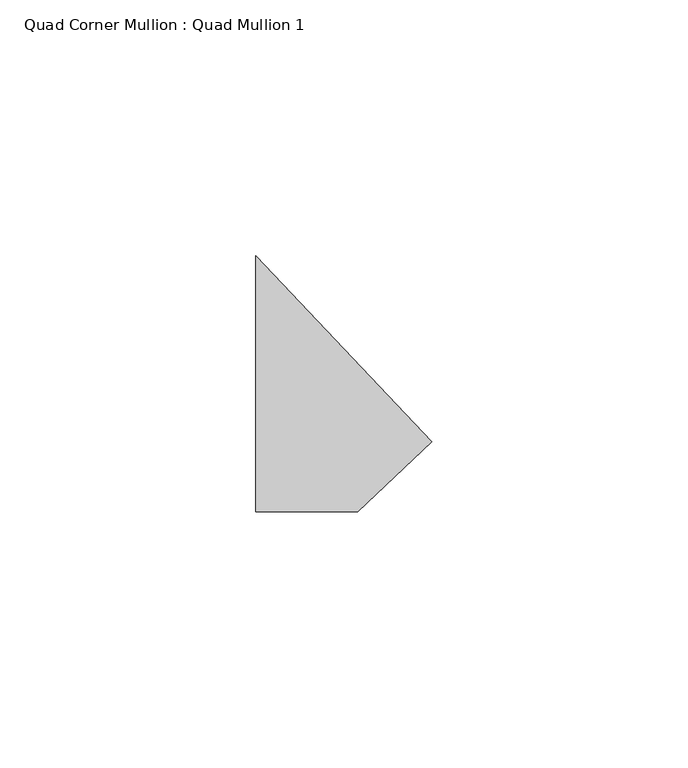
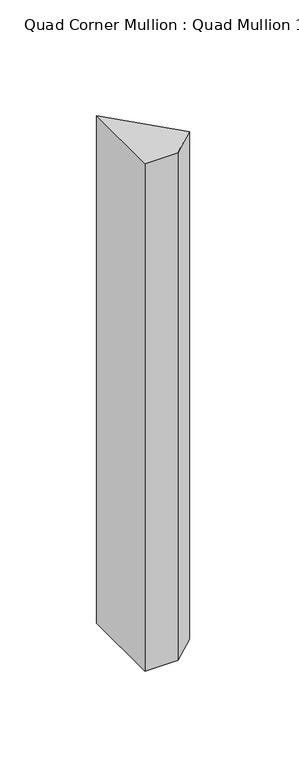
"""IFC4 building model written with IfcOpenShell, lengths in millimetres: member geometry, Quad Corner Mullion : Quad Mullion 1."""

from ifc_helpers import new_model, si_unit, frame, origin, place, context, project, spatial, polyline, outline, extrude, source, transform, mapped, element, save


def quad_corner_mullion_quad_mullion_1_d8de6604(model_context):
    return source(origin(), model_context, "Body", "SweptSolid", [
        extrude(outline(polyline([(24.401947, -11.3345815), (9.9462434, -25.0), (-9.9462434, -25.0), (-9.9462434, 25.0), (24.401947, -11.3345815)])), frame((0.0, 0.0, -320.0), z_axis=(0.0, 0.0, 1.0), x_axis=(1.0, 0.0, 0.0)), (0.0, 0.0, 1.0), 320.0),
    ])


if __name__ == "__main__":
    model = new_model("IFC4")
    model_context = context("Model", 3, world=origin())
    ifc_project = project(units=[si_unit("LENGTHUNIT", "METRE", prefix="MILLI")], contexts=[model_context])
    site = spatial("IfcSite", under=ifc_project)
    building = spatial("IfcBuilding", under=site)
    placement = place(None, origin())
    quad_corner_mullion_quad_mullion_1_shape = quad_corner_mullion_quad_mullion_1_d8de6604(model_context)
    element("IfcMember", 1, ObjectType="Quad Corner Mullion : Quad Mullion 1", at=placement, inside=building, context=model_context, shape_type="MappedRepresentation", body=[
        mapped(quad_corner_mullion_quad_mullion_1_shape, transform((0.0, 0.0, 0.0), x_axis=(1.0, 0.0, 0.0), y_axis=(0.0, 1.0, 0.0), z_axis=(0.0, 0.0, 1.0))),
    ])
    save(model, "model.ifc")
